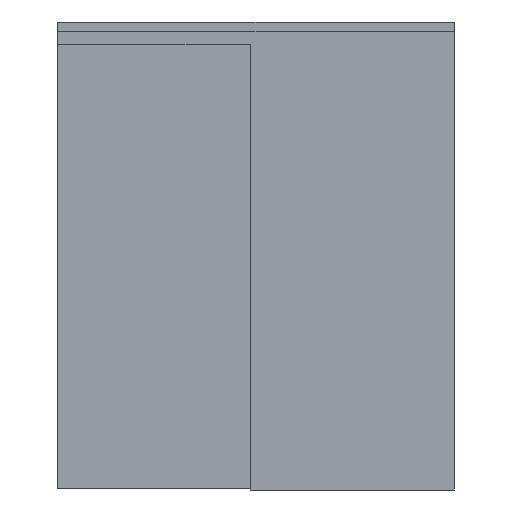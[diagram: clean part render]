
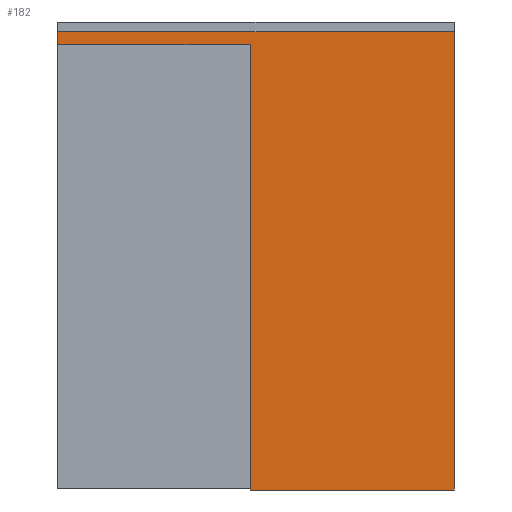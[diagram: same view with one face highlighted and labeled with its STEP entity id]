
A CAD part, front view. The second image highlights one B-rep face of the part: STEP entity #182.
In plain terms, the highlighted planar face has unit normal (0, -1, 0).
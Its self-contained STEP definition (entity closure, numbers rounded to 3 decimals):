
#182=ADVANCED_FACE('',(#444),#445,.F.);
#444=FACE_OUTER_BOUND('',#795,.T.);
#445=PLANE('',#796);
#795=EDGE_LOOP('',(#1241,#1242,#1243,#1244,#1245,#1246));
#796=AXIS2_PLACEMENT_3D('',#1247,#1248,#1249);
#1241=ORIENTED_EDGE('',*,*,#2126,.T.);
#1242=ORIENTED_EDGE('',*,*,#2116,.F.);
#1243=ORIENTED_EDGE('',*,*,#2120,.F.);
#1244=ORIENTED_EDGE('',*,*,#2124,.T.);
#1245=ORIENTED_EDGE('',*,*,#2127,.F.);
#1246=ORIENTED_EDGE('',*,*,#2128,.F.);
#1247=CARTESIAN_POINT('',(0.0,-44.,2333.0));
#1248=DIRECTION('',(0.0,1.0,-0.0));
#1249=DIRECTION('',(0.0,0.0,1.0));
#2116=EDGE_CURVE('',#2534,#2529,#2536,.T.);
#2120=EDGE_CURVE('',#2540,#2534,#2542,.T.);
#2124=EDGE_CURVE('',#2540,#2546,#2548,.T.);
#2126=EDGE_CURVE('',#2550,#2529,#2551,.T.);
#2127=EDGE_CURVE('',#2552,#2546,#2553,.T.);
#2128=EDGE_CURVE('',#2550,#2552,#2554,.T.);
#2529=VERTEX_POINT('',#3145);
#2534=VERTEX_POINT('',#3152);
#2536=LINE('',#3155,#3156);
#2540=VERTEX_POINT('',#3161);
#2542=LINE('',#3164,#3165);
#2546=VERTEX_POINT('',#3170);
#2548=LINE('',#3173,#3174);
#2550=VERTEX_POINT('',#3176);
#2551=LINE('',#3177,#3178);
#2552=VERTEX_POINT('',#3179);
#2553=LINE('',#3180,#3181);
#2554=LINE('',#3182,#3183);
#3145=CARTESIAN_POINT('',(995.0,-44.,2301.0));
#3152=CARTESIAN_POINT('',(995.0,-44.,0.0));
#3155=CARTESIAN_POINT('',(995.0,-44.,7.0));
#3156=VECTOR('',#3873,1.0);
#3161=CARTESIAN_POINT('',(2050.0,-44.,0.0));
#3164=CARTESIAN_POINT('',(1327.5,-44.,0.0));
#3165=VECTOR('',#3876,1.0);
#3170=CARTESIAN_POINT('',(2050.0,-44.,2368.0));
#3173=CARTESIAN_POINT('',(2050.0,-44.,7.0));
#3174=VECTOR('',#3879,1.0);
#3176=CARTESIAN_POINT('',(0.0,-44.,2301.0));
#3177=CARTESIAN_POINT('',(0.0,-44.,2301.0));
#3178=VECTOR('',#3880,1.0);
#3179=CARTESIAN_POINT('',(0.0,-44.,2368.0));
#3180=CARTESIAN_POINT('',(1270.0,-44.,2368.0));
#3181=VECTOR('',#3881,1.0);
#3182=CARTESIAN_POINT('',(0.0,-44.,2301.0));
#3183=VECTOR('',#3882,1.0);
#3873=DIRECTION('',(0.0,0.0,1.0));
#3876=DIRECTION('',(-1.0,0.0,0.0));
#3879=DIRECTION('',(0.0,0.0,1.0));
#3880=DIRECTION('',(1.0,0.0,0.0));
#3881=DIRECTION('',(1.0,0.0,0.0));
#3882=DIRECTION('',(0.0,0.0,1.0));
